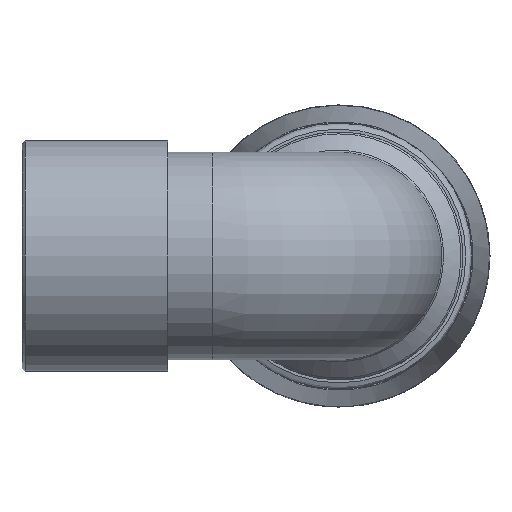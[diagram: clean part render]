
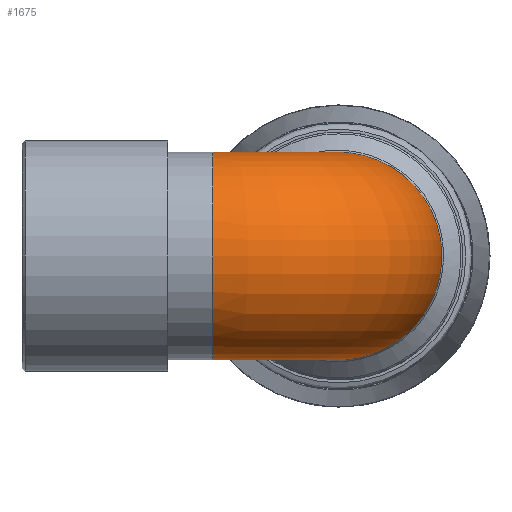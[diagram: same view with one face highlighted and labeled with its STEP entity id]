
A CAD part, left-side view. The second image highlights one B-rep face of the part: STEP entity #1675.
In plain terms, the highlighted toroidal (fillet/blend) face has major radius 17.144 mm and minor radius 14.108 mm.
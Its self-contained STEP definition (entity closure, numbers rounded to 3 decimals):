
#17=TOROIDAL_SURFACE('',#1832,17.144,14.108);
#186=B_SPLINE_CURVE_WITH_KNOTS('',3,(#2860,#2861,#2862,#2863,#2864,#2865,
#2866,#2867,#2868,#2869,#2870,#2871,#2872,#2873,#2874,#2875,#2876,#2877,
#2878),.UNSPECIFIED.,.T.,.F.,(4,1,1,1,1,1,1,1,1,1,1,1,1,1,1,1,4),(-3.142,
-2.917,-2.693,-2.244,-1.795,
-1.346,-0.898,-0.449,-0.15,
0.449,0.748,1.346,1.795,2.244,
2.693,2.917,3.142),.UNSPECIFIED.);
#373=FACE_BOUND('',#522,.T.);
#399=FACE_OUTER_BOUND('',#521,.T.);
#521=EDGE_LOOP('',(#1222));
#522=EDGE_LOOP('',(#1223));
#671=CIRCLE('',#1827,14.108);
#760=VERTEX_POINT('',#2858);
#779=VERTEX_POINT('',#2943);
#931=EDGE_CURVE('',#760,#760,#186,.T.);
#950=EDGE_CURVE('',#779,#779,#671,.T.);
#1222=ORIENTED_EDGE('',*,*,#931,.F.);
#1223=ORIENTED_EDGE('',*,*,#950,.T.);
#1675=ADVANCED_FACE('',(#399,#373),#17,.T.);
#1827=AXIS2_PLACEMENT_3D('',#2944,#2090,#2091);
#1832=AXIS2_PLACEMENT_3D('',#2952,#2100,#2101);
#2090=DIRECTION('center_axis',(0.,-1.,0.));
#2091=DIRECTION('ref_axis',(-1.,0.,0.));
#2100=DIRECTION('center_axis',(0.,0.,1.));
#2101=DIRECTION('ref_axis',(1.,0.,0.));
#2858=CARTESIAN_POINT('',(14.254,16.217,0.));
#2860=CARTESIAN_POINT('Ctrl Pts',(14.256,16.217,0.));
#2861=CARTESIAN_POINT('Ctrl Pts',(14.256,16.217,1.072));
#2862=CARTESIAN_POINT('Ctrl Pts',(14.131,15.69,3.215));
#2863=CARTESIAN_POINT('Ctrl Pts',(13.977,13.541,7.108));
#2864=CARTESIAN_POINT('Ctrl Pts',(14.038,9.834,11.233));
#2865=CARTESIAN_POINT('Ctrl Pts',(14.086,3.889,14.146));
#2866=CARTESIAN_POINT('Ctrl Pts',(14.119,-2.728,14.298));
#2867=CARTESIAN_POINT('Ctrl Pts',(14.134,-8.758,11.559));
#2868=CARTESIAN_POINT('Ctrl Pts',(14.142,-12.488,7.016));
#2869=CARTESIAN_POINT('Ctrl Pts',(14.145,-14.463,0.788));
#2870=CARTESIAN_POINT('Ctrl Pts',(14.144,-13.549,-5.131));
#2871=CARTESIAN_POINT('Ctrl Pts',(14.135,-9.377,-11.078));
#2872=CARTESIAN_POINT('Ctrl Pts',(14.123,-3.472,-14.323));
#2873=CARTESIAN_POINT('Ctrl Pts',(14.086,3.893,-14.142));
#2874=CARTESIAN_POINT('Ctrl Pts',(14.038,9.83,-11.234));
#2875=CARTESIAN_POINT('Ctrl Pts',(13.976,13.542,-7.107));
#2876=CARTESIAN_POINT('Ctrl Pts',(14.131,15.69,-3.216));
#2877=CARTESIAN_POINT('Ctrl Pts',(14.256,16.217,-1.072));
#2878=CARTESIAN_POINT('Ctrl Pts',(14.256,16.217,0.));
#2943=CARTESIAN_POINT('',(14.108,17.144,0.));
#2944=CARTESIAN_POINT('Origin',(0.,17.144,0.));
#2952=CARTESIAN_POINT('Origin',(17.144,17.144,0.));
